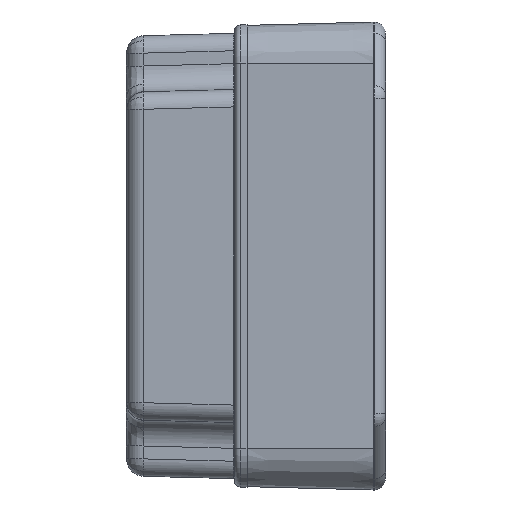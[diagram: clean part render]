
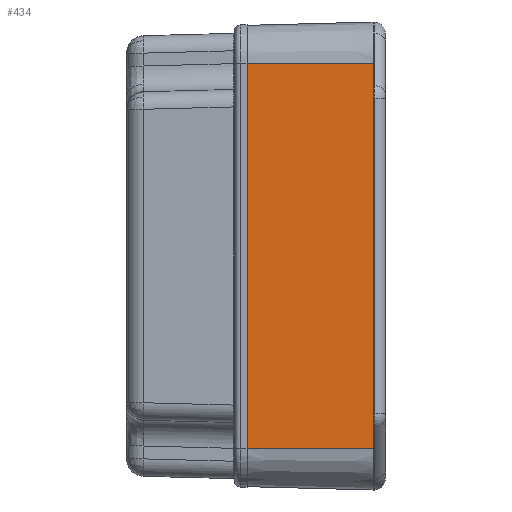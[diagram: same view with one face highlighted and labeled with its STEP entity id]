
A CAD part, left-side view. The second image highlights one B-rep face of the part: STEP entity #434.
In plain terms, the highlighted planar face has unit normal (-1, 0.026, 0).
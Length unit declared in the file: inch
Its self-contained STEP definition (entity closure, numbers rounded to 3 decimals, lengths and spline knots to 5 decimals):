
#434 = ADVANCED_FACE ( 'NONE', ( #15380 ), #2793, .T. ) ;
#452 = LINE ( 'NONE', #10395, #17786 ) ;
#566 = EDGE_CURVE ( 'NONE', #10867, #17447, #30008, .T. ) ;
#2325 = DIRECTION ( 'NONE',  ( 0.026, 1., 0. ) ) ;
#2413 = VERTEX_POINT ( 'NONE', #3776 ) ;
#2793 = PLANE ( 'NONE',  #31222 ) ;
#3112 = DIRECTION ( 'NONE',  ( -0.026, -1., 0. ) ) ;
#3776 = CARTESIAN_POINT ( 'NONE',  ( -4.16101, -1.375, 2.0834 ) ) ;
#4685 = VERTEX_POINT ( 'NONE', #15922 ) ;
#6367 = EDGE_CURVE ( 'NONE', #4685, #2413, #452, .T. ) ;
#7308 = CARTESIAN_POINT ( 'NONE',  ( -4.125, 0., -2.0834 ) ) ;
#8822 = DIRECTION ( 'NONE',  ( 0.026, 1., 0. ) ) ;
#10173 = DIRECTION ( 'NONE',  ( 0., 0., 1. ) ) ;
#10395 = CARTESIAN_POINT ( 'NONE',  ( -4.16101, -1.375, 2.0834 ) ) ;
#10576 = DIRECTION ( 'NONE',  ( 0., 0., 1. ) ) ;
#10867 = VERTEX_POINT ( 'NONE', #7308 ) ;
#11152 = VECTOR ( 'NONE', #10576, 39.37008 ) ;
#12021 = CARTESIAN_POINT ( 'NONE',  ( -4.125, 0., 2.0834 ) ) ;
#15380 = FACE_OUTER_BOUND ( 'NONE', #21860, .T. ) ;
#15922 = CARTESIAN_POINT ( 'NONE',  ( -4.16101, -1.375, -2.0834 ) ) ;
#16919 = EDGE_CURVE ( 'NONE', #2413, #17447, #20226, .T. ) ;
#17447 = VERTEX_POINT ( 'NONE', #12021 ) ;
#17750 = ORIENTED_EDGE ( 'NONE', *, *, #16919, .T. ) ;
#17786 = VECTOR ( 'NONE', #10173, 39.37008 ) ;
#19350 = VECTOR ( 'NONE', #2325, 39.37008 ) ;
#20039 = CARTESIAN_POINT ( 'NONE',  ( -4.125, 0., -2.0834 ) ) ;
#20226 = LINE ( 'NONE', #23422, #20988 ) ;
#20988 = VECTOR ( 'NONE', #8822, 39.37008 ) ;
#21860 = EDGE_LOOP ( 'NONE', ( #23018, #21920, #24916, #17750 ) ) ;
#21920 = ORIENTED_EDGE ( 'NONE', *, *, #24116, .F. ) ;
#23018 = ORIENTED_EDGE ( 'NONE', *, *, #566, .F. ) ;
#23422 = CARTESIAN_POINT ( 'NONE',  ( -4.125, 0., 2.0834 ) ) ;
#24116 = EDGE_CURVE ( 'NONE', #4685, #10867, #25877, .T. ) ;
#24916 = ORIENTED_EDGE ( 'NONE', *, *, #6367, .T. ) ;
#25877 = LINE ( 'NONE', #31877, #19350 ) ;
#29956 = DIRECTION ( 'NONE',  ( -1., 0.026, 0. ) ) ;
#30008 = LINE ( 'NONE', #30457, #11152 ) ;
#30457 = CARTESIAN_POINT ( 'NONE',  ( -4.125, 0., -2.0834 ) ) ;
#31222 = AXIS2_PLACEMENT_3D ( 'NONE', #20039, #29956, #3112 ) ;
#31877 = CARTESIAN_POINT ( 'NONE',  ( -4.125, 0., -2.0834 ) ) ;
